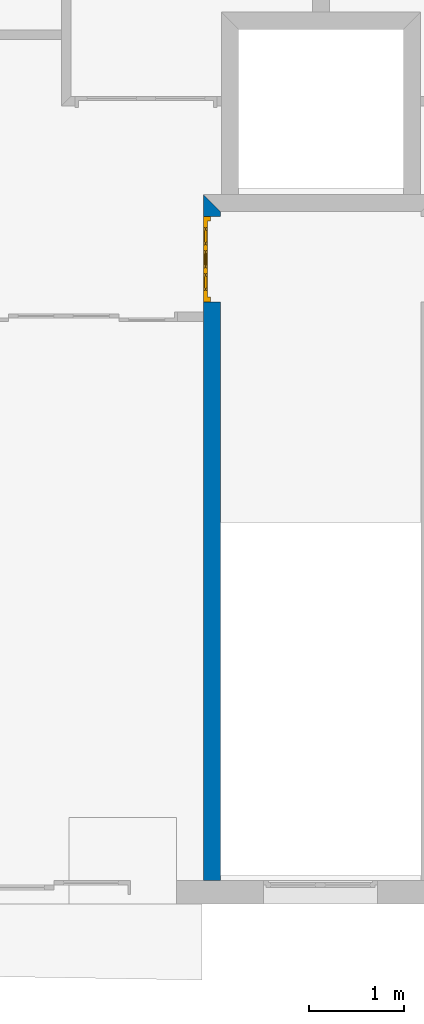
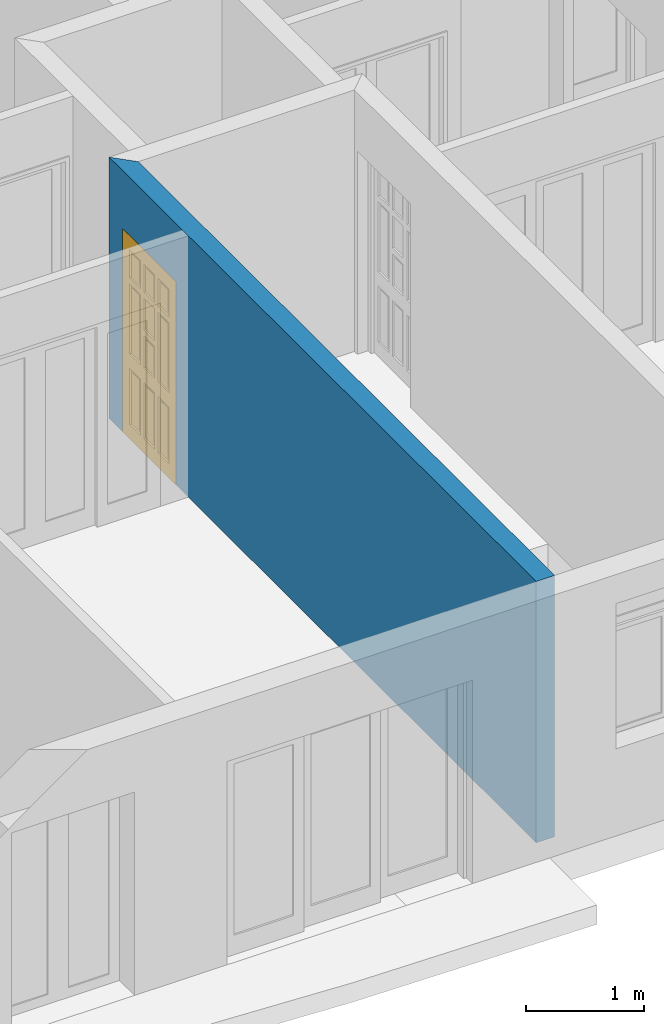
# One storey, part 5 of 12: 1 door, 1 wall, 1 opening.
"""IFC2X3 building model written with IfcOpenShell, lengths in metres."""

from ifc_helpers import new_model, entity, si_unit, converted_unit, direction, frame, frame_2d, origin_with_axes, place, context, project, spatial, polyline, rectangle, outline, extrude, faceted_brep, source, transform, mapped, material, layer, layer_set, layer_usage, type_object, element, fill, save


model = new_model("IFC2X3")

# Units and contexts
context_of_model = context(None, 3, precision=1e-05, world=origin_with_axes(), true_north=direction((6.123234e-17, 1.0)))
plan_context = context("Plan", 3, precision=1e-05, world=origin_with_axes(), true_north=direction((6.123234e-17, 1.0)))
model_context = context("Model", 3, precision=1e-05, world=origin_with_axes(), true_north=direction((6.123234e-17, 1.0)))
ifc_project = project(units=[si_unit("LENGTHUNIT", "METRE"), si_unit("AREAUNIT", "SQUARE_METRE"), si_unit("VOLUMEUNIT", "CUBIC_METRE"), converted_unit("PLANEANGLEUNIT", "DEGREE", entity("IfcPlaneAngleMeasure", 0.017453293), si_unit("PLANEANGLEUNIT", "RADIAN"), dimensions=[0, 0, 0, 0, 0, 0, 0]), si_unit("SOLIDANGLEUNIT", "STERADIAN"), si_unit("MASSUNIT", "GRAM"), si_unit("TIMEUNIT", "SECOND"), si_unit("THERMODYNAMICTEMPERATUREUNIT", "DEGREE_CELSIUS"), si_unit("LUMINOUSINTENSITYUNIT", "LUMEN")], contexts=[context_of_model, plan_context, model_context])

# Site, building, storey
site_placement = place(None, origin_with_axes())
site = spatial("IfcSite", under=ifc_project, at=site_placement, Name="Por defecto Sitio", CompositionType="ELEMENT")
building_placement = place(site_placement, origin_with_axes())
building = spatial("IfcBuilding", under=site, at=building_placement, Name="Por defecto Edificio", CompositionType="ELEMENT")
storey_placement = place(building_placement, frame((0.0, 0.0, 4.2), z_axis=(0.0, 0.0, 1.0), x_axis=(1.0, 0.0, 0.0)))
storey = spatial("IfcBuildingStorey", under=building, at=storey_placement, Name="Primera", CompositionType="ELEMENT", Elevation=4.2)

# Wall, opening, door
ifc_material = material(Name="Ladrillo común")
ifc_layer = layer(ifc_material, 0.18, ventilated="UNKNOWN")
ifc_layer_set = layer_set([ifc_layer], Name="Ladrillo común")
ifc_layer_usage = layer_usage(ifc_layer_set, "AXIS2", "NEGATIVE", 0.0)
wall_type = type_object("IfcWallType", Name="Ladrillo común", PredefinedType="NOTDEFINED")
wall_placement = place(storey_placement, frame((6.9566603, 7.2976562, 0.0), z_axis=(0.0, 0.0, 1.0), x_axis=(0.0, -1.0, 0.0)))
wall = element("IfcWallStandardCase", 1, at=wall_placement, inside=storey, type_object=wall_type, material=ifc_layer_usage, Name="Muro-010", context=context_of_model, shape_type="SweptSolid", body=[
    extrude(outline(polyline([(-0.18, -0.18), (7.0476562, -0.18), (7.0476562, 0.0), (-8.0824236e-14, 0.0), (-0.18, -0.18)])), origin_with_axes(), (0.0, 0.0, 1.0), 2.7),
])
opening_placement = place(wall_placement, frame((0.5, -0.18, 0.0), z_axis=(0.0, 0.0, 1.0), x_axis=(1.0, 0.0, 0.0)))
opening = element("IfcOpeningElement", 2, at=opening_placement, cuts=wall, ObjectType="Opening", context=model_context, shape_type="SweptSolid", body=[
    extrude(rectangle(XDim=0.9, YDim=2.1, at=frame_2d((0.0, 1.05), x_axis=(-1.0, 0.0))), frame((0.0, 0.0, 0.0), z_axis=(0.0, 1.0, 0.0), x_axis=(-1.0, 0.0, 0.0)), (0.0, 0.0, 1.0), 0.18),
])
door_style = type_object("IfcDoorStyle", Name="P1 Entrada 12", ConstructionType="NOTDEFINED", OperationType="SINGLE_SWING_LEFT", ParameterTakesPrecedence=False, Sizeable=False)
shared_shape = source(origin_with_axes(), model_context, "Body", "Brep", [
    faceted_brep([(0.85, 0.031, 0.0), (0.85, -8.8817842e-16, 0.0), (0.85, -8.8817842e-16, 2.05), (0.85, 0.031, 2.05), (0.862, 0.031, 0.0), (0.862, 0.075, 0.0), (0.9, 0.075, 0.0), (0.9, -8.8817842e-16, 0.0), (0.9, -8.8817842e-16, 2.05), (0.862, 0.031, 2.05), (0.9, 0.075, 2.05), (0.862, 0.075, 2.05)], [[[0, 1, 2, 3]], [[4, 5, 6, 7, 1, 0]], [[7, 8, 2, 1]], [[9, 3, 2, 8, 10, 11]], [[9, 4, 0, 3]], [[11, 5, 4, 9]], [[11, 10, 6, 5]], [[8, 7, 6, 10]]]),
    faceted_brep([(0.038, 0.031, 2.05), (0.038, 0.075, 2.05), (0.0, 0.075, 2.05), (0.0, -8.8817842e-16, 2.05), (0.05, -8.8817842e-16, 2.05), (0.05, 0.031, 2.05), (0.038, 0.031, 0.0), (0.038, 0.075, 0.0), (0.0, 0.075, 0.0), (0.0, 0.0, 0.0), (0.05, -8.8817842e-16, 0.0), (0.05, 0.031, 0.0)], [[[0, 1, 2, 3, 4, 5]], [[0, 6, 7, 1]], [[7, 8, 2, 1]], [[9, 3, 2, 8]], [[10, 4, 3, 9]], [[5, 4, 10, 11]], [[5, 11, 6, 0]], [[6, 11, 10, 9, 8, 7]]]),
    faceted_brep([(0.862, 0.075, 2.062), (0.038, 0.075, 2.062), (0.038, 0.075, 2.05), (0.0, 0.075, 2.05), (0.0, 0.075, 2.1), (0.9, 0.075, 2.1), (0.9, 0.075, 2.05), (0.862, 0.075, 2.05), (0.862, 0.031, 2.062), (0.038, 0.031, 2.062), (0.038, 0.031, 2.05), (0.05, 0.031, 2.05), (0.05, -8.8817842e-16, 2.05), (0.0, -8.8817842e-16, 2.05), (0.0, -8.8817842e-16, 2.1), (0.9, -8.8817842e-16, 2.1), (0.9, -8.8817842e-16, 2.05), (0.862, 0.031, 2.05), (0.85, -8.8817842e-16, 2.05), (0.85, 0.031, 2.05)], [[[0, 1, 2, 3, 4, 5, 6, 7]], [[0, 8, 9, 1]], [[1, 9, 10, 2]], [[10, 11, 12, 13, 3, 2]], [[13, 14, 4, 3]], [[14, 15, 5, 4]], [[15, 16, 6, 5]], [[17, 7, 6, 16, 18, 19]], [[7, 17, 8, 0]], [[10, 9, 8, 17, 19, 11]], [[19, 18, 12, 11]], [[14, 13, 12, 18, 16, 15]]]),
    faceted_brep([(0.038, 0.075, 0.15), (0.118, 0.075, 0.15), (0.118, 0.031, 0.15), (0.038, 0.031, 0.15), (0.038, 0.075, 1.952), (0.118, 0.075, 1.952), (0.118, 0.075, 1.6618667), (0.118, 0.075, 1.6018667), (0.118, 0.075, 0.88), (0.118, 0.075, 0.73), (0.118, 0.031, 0.73), (0.118, 0.031, 0.88), (0.118, 0.031, 1.6018667), (0.118, 0.031, 1.6618667), (0.118, 0.031, 1.952), (0.038, 0.031, 1.952)], [[[0, 1, 2, 3]], [[0, 4, 5, 6, 7, 8, 9, 1]], [[1, 9, 10, 2]], [[3, 2, 10, 11, 12, 13, 14, 15]], [[4, 0, 3, 15]], [[5, 4, 15, 14]], [[6, 5, 14, 13]], [[7, 6, 13, 12]], [[8, 7, 12, 11]], [[9, 8, 11, 10]]]),
    faceted_brep([(0.862, 0.075, 0.15), (0.862, 0.075, 1.952), (0.862, 0.031, 1.952), (0.862, 0.031, 0.15), (0.782, 0.075, 0.15), (0.782, 0.075, 0.73), (0.782, 0.075, 0.88), (0.782, 0.075, 1.6018667), (0.782, 0.075, 1.6618667), (0.782, 0.075, 1.952), (0.782, 0.031, 1.952), (0.782, 0.031, 1.6618667), (0.782, 0.031, 1.6018667), (0.782, 0.031, 0.88), (0.782, 0.031, 0.73), (0.782, 0.031, 0.15)], [[[0, 1, 2, 3]], [[0, 4, 5, 6, 7, 8, 9, 1]], [[1, 9, 10, 2]], [[3, 2, 10, 11, 12, 13, 14, 15]], [[4, 0, 3, 15]], [[5, 4, 15, 14]], [[6, 5, 14, 13]], [[7, 6, 13, 12]], [[8, 7, 12, 11]], [[9, 8, 11, 10]]]),
    faceted_brep([(0.038, 0.075, 0.0), (0.862, 0.075, 0.0), (0.862, 0.031, 0.0), (0.038, 0.031, 0.0), (0.038, 0.075, 0.15), (0.118, 0.075, 0.15), (0.29933333, 0.075, 0.15), (0.35933333, 0.075, 0.15), (0.54066667, 0.075, 0.15), (0.60066667, 0.075, 0.15), (0.782, 0.075, 0.15), (0.862, 0.075, 0.15), (0.862, 0.031, 0.15), (0.782, 0.031, 0.15), (0.60066667, 0.031, 0.15), (0.54066667, 0.031, 0.15), (0.35933333, 0.031, 0.15), (0.29933333, 0.031, 0.15), (0.118, 0.031, 0.15), (0.038, 0.031, 0.15)], [[[0, 1, 2, 3]], [[0, 4, 5, 6, 7, 8, 9, 10, 11, 1]], [[1, 11, 12, 2]], [[3, 2, 12, 13, 14, 15, 16, 17, 18, 19]], [[4, 0, 3, 19]], [[5, 4, 19, 18]], [[6, 5, 18, 17]], [[7, 6, 17, 16]], [[8, 7, 16, 15]], [[9, 8, 15, 14]], [[10, 9, 14, 13]], [[11, 10, 13, 12]]]),
    faceted_brep([(0.038, 0.075, 2.062), (0.038, 0.075, 1.952), (0.038, 0.031, 1.952), (0.038, 0.031, 2.062), (0.862, 0.075, 2.062), (0.862, 0.075, 1.952), (0.782, 0.075, 1.952), (0.60066667, 0.075, 1.952), (0.54066667, 0.075, 1.952), (0.35933333, 0.075, 1.952), (0.29933333, 0.075, 1.952), (0.118, 0.075, 1.952), (0.118, 0.031, 1.952), (0.29933333, 0.031, 1.952), (0.35933333, 0.031, 1.952), (0.54066667, 0.031, 1.952), (0.60066667, 0.031, 1.952), (0.782, 0.031, 1.952), (0.862, 0.031, 1.952), (0.862, 0.031, 2.062)], [[[0, 1, 2, 3]], [[0, 4, 5, 6, 7, 8, 9, 10, 11, 1]], [[1, 11, 12, 2]], [[3, 2, 12, 13, 14, 15, 16, 17, 18, 19]], [[4, 0, 3, 19]], [[5, 4, 19, 18]], [[6, 5, 18, 17]], [[7, 6, 17, 16]], [[8, 7, 16, 15]], [[9, 8, 15, 14]], [[10, 9, 14, 13]], [[11, 10, 13, 12]]]),
    faceted_brep([(0.35933333, 0.075, 0.15), (0.35933333, 0.075, 0.73), (0.35933333, 0.031, 0.73), (0.35933333, 0.031, 0.15), (0.29933333, 0.075, 0.15), (0.29933333, 0.075, 0.73), (0.29933333, 0.031, 0.73), (0.29933333, 0.031, 0.15)], [[[0, 1, 2, 3]], [[0, 4, 5, 1]], [[1, 5, 6, 2]], [[3, 2, 6, 7]], [[4, 0, 3, 7]], [[5, 4, 7, 6]]]),
    faceted_brep([(0.35933333, 0.075, 0.88), (0.35933333, 0.075, 1.2109333), (0.35933333, 0.031, 1.2109333), (0.35933333, 0.031, 0.88), (0.29933333, 0.075, 0.88), (0.29933333, 0.075, 1.6018667), (0.35933333, 0.075, 1.6018667), (0.35933333, 0.075, 1.2709333), (0.35933333, 0.031, 1.2709333), (0.35933333, 0.031, 1.6018667), (0.29933333, 0.031, 1.6018667), (0.29933333, 0.031, 0.88)], [[[0, 1, 2, 3]], [[0, 4, 5, 6, 7, 1]], [[1, 7, 8, 2]], [[3, 2, 8, 9, 10, 11]], [[4, 0, 3, 11]], [[5, 4, 11, 10]], [[6, 5, 10, 9]], [[7, 6, 9, 8]]]),
    faceted_brep([(0.35933333, 0.075, 1.6618667), (0.35933333, 0.075, 1.952), (0.35933333, 0.031, 1.952), (0.35933333, 0.031, 1.6618667), (0.29933333, 0.075, 1.6618667), (0.29933333, 0.075, 1.952), (0.29933333, 0.031, 1.952), (0.29933333, 0.031, 1.6618667)], [[[0, 1, 2, 3]], [[0, 4, 5, 1]], [[1, 5, 6, 2]], [[3, 2, 6, 7]], [[4, 0, 3, 7]], [[5, 4, 7, 6]]]),
    faceted_brep([(0.60066667, 0.075, 0.15), (0.60066667, 0.075, 0.73), (0.60066667, 0.031, 0.73), (0.60066667, 0.031, 0.15), (0.54066667, 0.075, 0.15), (0.54066667, 0.075, 0.73), (0.54066667, 0.031, 0.73), (0.54066667, 0.031, 0.15)], [[[0, 1, 2, 3]], [[0, 4, 5, 1]], [[1, 5, 6, 2]], [[3, 2, 6, 7]], [[4, 0, 3, 7]], [[5, 4, 7, 6]]]),
    faceted_brep([(0.60066667, 0.075, 0.88), (0.60066667, 0.075, 1.6018667), (0.60066667, 0.031, 1.6018667), (0.60066667, 0.031, 0.88), (0.54066667, 0.075, 0.88), (0.54066667, 0.075, 1.2109333), (0.54066667, 0.075, 1.2709333), (0.54066667, 0.075, 1.6018667), (0.54066667, 0.031, 1.6018667), (0.54066667, 0.031, 1.2709333), (0.54066667, 0.031, 1.2109333), (0.54066667, 0.031, 0.88)], [[[0, 1, 2, 3]], [[0, 4, 5, 6, 7, 1]], [[1, 7, 8, 2]], [[3, 2, 8, 9, 10, 11]], [[4, 0, 3, 11]], [[5, 4, 11, 10]], [[6, 5, 10, 9]], [[7, 6, 9, 8]]]),
    faceted_brep([(0.60066667, 0.075, 1.6618667), (0.60066667, 0.075, 1.952), (0.60066667, 0.031, 1.952), (0.60066667, 0.031, 1.6618667), (0.54066667, 0.075, 1.6618667), (0.54066667, 0.075, 1.952), (0.54066667, 0.031, 1.952), (0.54066667, 0.031, 1.6618667)], [[[0, 1, 2, 3]], [[0, 4, 5, 1]], [[1, 5, 6, 2]], [[3, 2, 6, 7]], [[4, 0, 3, 7]], [[5, 4, 7, 6]]]),
    faceted_brep([(0.118, 0.075, 1.6018667), (0.29933333, 0.075, 1.6018667), (0.29933333, 0.031, 1.6018667), (0.118, 0.031, 1.6018667), (0.118, 0.075, 1.6618667), (0.29933333, 0.075, 1.6618667), (0.35933333, 0.075, 1.6618667), (0.54066667, 0.075, 1.6618667), (0.60066667, 0.075, 1.6618667), (0.782, 0.075, 1.6618667), (0.782, 0.075, 1.6018667), (0.60066667, 0.075, 1.6018667), (0.54066667, 0.075, 1.6018667), (0.35933333, 0.075, 1.6018667), (0.35933333, 0.031, 1.6018667), (0.54066667, 0.031, 1.6018667), (0.60066667, 0.031, 1.6018667), (0.782, 0.031, 1.6018667), (0.782, 0.031, 1.6618667), (0.60066667, 0.031, 1.6618667), (0.54066667, 0.031, 1.6618667), (0.35933333, 0.031, 1.6618667), (0.29933333, 0.031, 1.6618667), (0.118, 0.031, 1.6618667)], [[[0, 1, 2, 3]], [[0, 4, 5, 6, 7, 8, 9, 10, 11, 12, 13, 1]], [[1, 13, 14, 2]], [[3, 2, 14, 15, 16, 17, 18, 19, 20, 21, 22, 23]], [[4, 0, 3, 23]], [[5, 4, 23, 22]], [[6, 5, 22, 21]], [[7, 6, 21, 20]], [[8, 7, 20, 19]], [[9, 8, 19, 18]], [[10, 9, 18, 17]], [[11, 10, 17, 16]], [[12, 11, 16, 15]], [[13, 12, 15, 14]]]),
    faceted_brep([(0.54066667, 0.075, 1.2109333), (0.54066667, 0.075, 1.2709333), (0.54066667, 0.031, 1.2709333), (0.54066667, 0.031, 1.2109333), (0.35933333, 0.075, 1.2109333), (0.35933333, 0.075, 1.2709333), (0.35933333, 0.031, 1.2709333), (0.35933333, 0.031, 1.2109333)], [[[0, 1, 2, 3]], [[0, 4, 5, 1]], [[1, 5, 6, 2]], [[3, 2, 6, 7]], [[4, 0, 3, 7]], [[5, 4, 7, 6]]]),
    faceted_brep([(0.118, 0.075, 0.73), (0.29933333, 0.075, 0.73), (0.29933333, 0.031, 0.73), (0.118, 0.031, 0.73), (0.118, 0.075, 0.88), (0.29933333, 0.075, 0.88), (0.35933333, 0.075, 0.88), (0.54066667, 0.075, 0.88), (0.60066667, 0.075, 0.88), (0.782, 0.075, 0.88), (0.782, 0.075, 0.73), (0.60066667, 0.075, 0.73), (0.54066667, 0.075, 0.73), (0.35933333, 0.075, 0.73), (0.35933333, 0.031, 0.73), (0.54066667, 0.031, 0.73), (0.60066667, 0.031, 0.73), (0.782, 0.031, 0.73), (0.782, 0.031, 0.88), (0.60066667, 0.031, 0.88), (0.54066667, 0.031, 0.88), (0.35933333, 0.031, 0.88), (0.29933333, 0.031, 0.88), (0.118, 0.031, 0.88)], [[[0, 1, 2, 3]], [[0, 4, 5, 6, 7, 8, 9, 10, 11, 12, 13, 1]], [[1, 13, 14, 2]], [[3, 2, 14, 15, 16, 17, 18, 19, 20, 21, 22, 23]], [[4, 0, 3, 23]], [[5, 4, 23, 22]], [[6, 5, 22, 21]], [[7, 6, 21, 20]], [[8, 7, 20, 19]], [[9, 8, 19, 18]], [[10, 9, 18, 17]], [[11, 10, 17, 16]], [[12, 11, 16, 15]], [[13, 12, 15, 14]]]),
    faceted_brep([(0.118, 0.058, 0.15), (0.29933333, 0.058, 0.15), (0.29933333, 0.048, 0.15), (0.118, 0.048, 0.15), (0.118, 0.058, 0.73), (0.29933333, 0.058, 0.73), (0.29933333, 0.048, 0.73), (0.118, 0.048, 0.73)], [[[0, 1, 2, 3]], [[0, 4, 5, 1]], [[1, 5, 6, 2]], [[3, 2, 6, 7]], [[4, 0, 3, 7]], [[5, 4, 7, 6]]]),
    faceted_brep([(0.35933333, 0.058, 0.15), (0.54066667, 0.058, 0.15), (0.54066667, 0.048, 0.15), (0.35933333, 0.048, 0.15), (0.35933333, 0.058, 0.73), (0.54066667, 0.058, 0.73), (0.54066667, 0.048, 0.73), (0.35933333, 0.048, 0.73)], [[[0, 1, 2, 3]], [[0, 4, 5, 1]], [[1, 5, 6, 2]], [[3, 2, 6, 7]], [[4, 0, 3, 7]], [[5, 4, 7, 6]]]),
    faceted_brep([(0.60066667, 0.058, 0.15), (0.782, 0.058, 0.15), (0.782, 0.048, 0.15), (0.60066667, 0.048, 0.15), (0.60066667, 0.058, 0.73), (0.782, 0.058, 0.73), (0.782, 0.048, 0.73), (0.60066667, 0.048, 0.73)], [[[0, 1, 2, 3]], [[0, 4, 5, 1]], [[1, 5, 6, 2]], [[3, 2, 6, 7]], [[4, 0, 3, 7]], [[5, 4, 7, 6]]]),
    faceted_brep([(0.118, 0.058, 1.6618667), (0.29933333, 0.058, 1.6618667), (0.29933333, 0.048, 1.6618667), (0.118, 0.048, 1.6618667), (0.118, 0.058, 1.952), (0.29933333, 0.058, 1.952), (0.29933333, 0.048, 1.952), (0.118, 0.048, 1.952)], [[[0, 1, 2, 3]], [[0, 4, 5, 1]], [[1, 5, 6, 2]], [[3, 2, 6, 7]], [[4, 0, 3, 7]], [[5, 4, 7, 6]]]),
    faceted_brep([(0.35933333, 0.058, 1.6618667), (0.54066667, 0.058, 1.6618667), (0.54066667, 0.048, 1.6618667), (0.35933333, 0.048, 1.6618667), (0.35933333, 0.058, 1.952), (0.54066667, 0.058, 1.952), (0.54066667, 0.048, 1.952), (0.35933333, 0.048, 1.952)], [[[0, 1, 2, 3]], [[0, 4, 5, 1]], [[1, 5, 6, 2]], [[3, 2, 6, 7]], [[4, 0, 3, 7]], [[5, 4, 7, 6]]]),
    faceted_brep([(0.60066667, 0.058, 1.6618667), (0.782, 0.058, 1.6618667), (0.782, 0.048, 1.6618667), (0.60066667, 0.048, 1.6618667), (0.60066667, 0.058, 1.952), (0.782, 0.058, 1.952), (0.782, 0.048, 1.952), (0.60066667, 0.048, 1.952)], [[[0, 1, 2, 3]], [[0, 4, 5, 1]], [[1, 5, 6, 2]], [[3, 2, 6, 7]], [[4, 0, 3, 7]], [[5, 4, 7, 6]]]),
    faceted_brep([(0.118, 0.058, 0.88), (0.29933333, 0.058, 0.88), (0.29933333, 0.048, 0.88), (0.118, 0.048, 0.88), (0.118, 0.058, 1.6018667), (0.29933333, 0.058, 1.6018667), (0.29933333, 0.048, 1.6018667), (0.118, 0.048, 1.6018667)], [[[0, 1, 2, 3]], [[0, 4, 5, 1]], [[1, 5, 6, 2]], [[3, 2, 6, 7]], [[4, 0, 3, 7]], [[5, 4, 7, 6]]]),
    faceted_brep([(0.35933333, 0.058, 0.88), (0.54066667, 0.058, 0.88), (0.54066667, 0.048, 0.88), (0.35933333, 0.048, 0.88), (0.35933333, 0.058, 1.2109333), (0.54066667, 0.058, 1.2109333), (0.54066667, 0.048, 1.2109333), (0.35933333, 0.048, 1.2109333)], [[[0, 1, 2, 3]], [[0, 4, 5, 1]], [[1, 5, 6, 2]], [[3, 2, 6, 7]], [[4, 0, 3, 7]], [[5, 4, 7, 6]]]),
    faceted_brep([(0.60066667, 0.058, 0.88), (0.782, 0.058, 0.88), (0.782, 0.048, 0.88), (0.60066667, 0.048, 0.88), (0.60066667, 0.058, 1.6018667), (0.782, 0.058, 1.6018667), (0.782, 0.048, 1.6018667), (0.60066667, 0.048, 1.6018667)], [[[0, 1, 2, 3]], [[0, 4, 5, 1]], [[1, 5, 6, 2]], [[3, 2, 6, 7]], [[4, 0, 3, 7]], [[5, 4, 7, 6]]]),
    faceted_brep([(0.35933333, 0.058, 1.2709333), (0.54066667, 0.058, 1.2709333), (0.54066667, 0.048, 1.2709333), (0.35933333, 0.048, 1.2709333), (0.35933333, 0.058, 1.6018667), (0.54066667, 0.058, 1.6018667), (0.54066667, 0.048, 1.6018667), (0.35933333, 0.048, 1.6018667)], [[[0, 1, 2, 3]], [[0, 4, 5, 1]], [[1, 5, 6, 2]], [[3, 2, 6, 7]], [[4, 0, 3, 7]], [[5, 4, 7, 6]]]),
    faceted_brep([(0.148, 0.066, 0.18), (0.26933333, 0.066, 0.18), (0.26933333, 0.058, 0.18), (0.148, 0.058, 0.18), (0.148, 0.066, 0.7), (0.26933333, 0.066, 0.7), (0.26933333, 0.058, 0.7), (0.148, 0.058, 0.7)], [[[0, 1, 2, 3]], [[0, 4, 5, 1]], [[1, 5, 6, 2]], [[3, 2, 6, 7]], [[4, 0, 3, 7]], [[5, 4, 7, 6]]]),
    faceted_brep([(0.38933333, 0.066, 0.18), (0.51066667, 0.066, 0.18), (0.51066667, 0.058, 0.18), (0.38933333, 0.058, 0.18), (0.38933333, 0.066, 0.7), (0.51066667, 0.066, 0.7), (0.51066667, 0.058, 0.7), (0.38933333, 0.058, 0.7)], [[[0, 1, 2, 3]], [[0, 4, 5, 1]], [[1, 5, 6, 2]], [[3, 2, 6, 7]], [[4, 0, 3, 7]], [[5, 4, 7, 6]]]),
    faceted_brep([(0.63066667, 0.066, 0.18), (0.752, 0.066, 0.18), (0.752, 0.058, 0.18), (0.63066667, 0.058, 0.18), (0.63066667, 0.066, 0.7), (0.752, 0.066, 0.7), (0.752, 0.058, 0.7), (0.63066667, 0.058, 0.7)], [[[0, 1, 2, 3]], [[0, 4, 5, 1]], [[1, 5, 6, 2]], [[3, 2, 6, 7]], [[4, 0, 3, 7]], [[5, 4, 7, 6]]]),
    faceted_brep([(0.148, 0.066, 1.6918667), (0.26933333, 0.066, 1.6918667), (0.26933333, 0.058, 1.6918667), (0.148, 0.058, 1.6918667), (0.148, 0.066, 1.922), (0.26933333, 0.066, 1.922), (0.26933333, 0.058, 1.922), (0.148, 0.058, 1.922)], [[[0, 1, 2, 3]], [[0, 4, 5, 1]], [[1, 5, 6, 2]], [[3, 2, 6, 7]], [[4, 0, 3, 7]], [[5, 4, 7, 6]]]),
    faceted_brep([(0.38933333, 0.066, 1.6918667), (0.51066667, 0.066, 1.6918667), (0.51066667, 0.058, 1.6918667), (0.38933333, 0.058, 1.6918667), (0.38933333, 0.066, 1.922), (0.51066667, 0.066, 1.922), (0.51066667, 0.058, 1.922), (0.38933333, 0.058, 1.922)], [[[0, 1, 2, 3]], [[0, 4, 5, 1]], [[1, 5, 6, 2]], [[3, 2, 6, 7]], [[4, 0, 3, 7]], [[5, 4, 7, 6]]]),
    faceted_brep([(0.63066667, 0.066, 1.6918667), (0.752, 0.066, 1.6918667), (0.752, 0.058, 1.6918667), (0.63066667, 0.058, 1.6918667), (0.63066667, 0.066, 1.922), (0.752, 0.066, 1.922), (0.752, 0.058, 1.922), (0.63066667, 0.058, 1.922)], [[[0, 1, 2, 3]], [[0, 4, 5, 1]], [[1, 5, 6, 2]], [[3, 2, 6, 7]], [[4, 0, 3, 7]], [[5, 4, 7, 6]]]),
    faceted_brep([(0.148, 0.066, 0.91), (0.26933333, 0.066, 0.91), (0.26933333, 0.058, 0.91), (0.148, 0.058, 0.91), (0.148, 0.066, 1.5718667), (0.26933333, 0.066, 1.5718667), (0.26933333, 0.058, 1.5718667), (0.148, 0.058, 1.5718667)], [[[0, 1, 2, 3]], [[0, 4, 5, 1]], [[1, 5, 6, 2]], [[3, 2, 6, 7]], [[4, 0, 3, 7]], [[5, 4, 7, 6]]]),
    faceted_brep([(0.38933333, 0.066, 0.91), (0.51066667, 0.066, 0.91), (0.51066667, 0.058, 0.91), (0.38933333, 0.058, 0.91), (0.38933333, 0.066, 1.1809333), (0.51066667, 0.066, 1.1809333), (0.51066667, 0.058, 1.1809333), (0.38933333, 0.058, 1.1809333)], [[[0, 1, 2, 3]], [[0, 4, 5, 1]], [[1, 5, 6, 2]], [[3, 2, 6, 7]], [[4, 0, 3, 7]], [[5, 4, 7, 6]]]),
    faceted_brep([(0.63066667, 0.066, 0.91), (0.752, 0.066, 0.91), (0.752, 0.058, 0.91), (0.63066667, 0.058, 0.91), (0.63066667, 0.066, 1.5718667), (0.752, 0.066, 1.5718667), (0.752, 0.058, 1.5718667), (0.63066667, 0.058, 1.5718667)], [[[0, 1, 2, 3]], [[0, 4, 5, 1]], [[1, 5, 6, 2]], [[3, 2, 6, 7]], [[4, 0, 3, 7]], [[5, 4, 7, 6]]]),
    faceted_brep([(0.148, 0.048, 0.18), (0.26933333, 0.048, 0.18), (0.26933333, 0.04, 0.18), (0.148, 0.04, 0.18), (0.148, 0.048, 0.7), (0.26933333, 0.048, 0.7), (0.26933333, 0.04, 0.7), (0.148, 0.04, 0.7)], [[[0, 1, 2, 3]], [[0, 4, 5, 1]], [[1, 5, 6, 2]], [[3, 2, 6, 7]], [[4, 0, 3, 7]], [[5, 4, 7, 6]]]),
    faceted_brep([(0.38933333, 0.048, 0.18), (0.51066667, 0.048, 0.18), (0.51066667, 0.04, 0.18), (0.38933333, 0.04, 0.18), (0.38933333, 0.048, 0.7), (0.51066667, 0.048, 0.7), (0.51066667, 0.04, 0.7), (0.38933333, 0.04, 0.7)], [[[0, 1, 2, 3]], [[0, 4, 5, 1]], [[1, 5, 6, 2]], [[3, 2, 6, 7]], [[4, 0, 3, 7]], [[5, 4, 7, 6]]]),
    faceted_brep([(0.63066667, 0.048, 0.18), (0.752, 0.048, 0.18), (0.752, 0.04, 0.18), (0.63066667, 0.04, 0.18), (0.63066667, 0.048, 0.7), (0.752, 0.048, 0.7), (0.752, 0.04, 0.7), (0.63066667, 0.04, 0.7)], [[[0, 1, 2, 3]], [[0, 4, 5, 1]], [[1, 5, 6, 2]], [[3, 2, 6, 7]], [[4, 0, 3, 7]], [[5, 4, 7, 6]]]),
    faceted_brep([(0.148, 0.048, 1.6918667), (0.26933333, 0.048, 1.6918667), (0.26933333, 0.04, 1.6918667), (0.148, 0.04, 1.6918667), (0.148, 0.048, 1.922), (0.26933333, 0.048, 1.922), (0.26933333, 0.04, 1.922), (0.148, 0.04, 1.922)], [[[0, 1, 2, 3]], [[0, 4, 5, 1]], [[1, 5, 6, 2]], [[3, 2, 6, 7]], [[4, 0, 3, 7]], [[5, 4, 7, 6]]]),
    faceted_brep([(0.38933333, 0.048, 1.6918667), (0.51066667, 0.048, 1.6918667), (0.51066667, 0.04, 1.6918667), (0.38933333, 0.04, 1.6918667), (0.38933333, 0.048, 1.922), (0.51066667, 0.048, 1.922), (0.51066667, 0.04, 1.922), (0.38933333, 0.04, 1.922)], [[[0, 1, 2, 3]], [[0, 4, 5, 1]], [[1, 5, 6, 2]], [[3, 2, 6, 7]], [[4, 0, 3, 7]], [[5, 4, 7, 6]]]),
    faceted_brep([(0.63066667, 0.048, 1.6918667), (0.752, 0.048, 1.6918667), (0.752, 0.04, 1.6918667), (0.63066667, 0.04, 1.6918667), (0.63066667, 0.048, 1.922), (0.752, 0.048, 1.922), (0.752, 0.04, 1.922), (0.63066667, 0.04, 1.922)], [[[0, 1, 2, 3]], [[0, 4, 5, 1]], [[1, 5, 6, 2]], [[3, 2, 6, 7]], [[4, 0, 3, 7]], [[5, 4, 7, 6]]]),
    faceted_brep([(0.148, 0.048, 0.91), (0.26933333, 0.048, 0.91), (0.26933333, 0.04, 0.91), (0.148, 0.04, 0.91), (0.148, 0.048, 1.5718667), (0.26933333, 0.048, 1.5718667), (0.26933333, 0.04, 1.5718667), (0.148, 0.04, 1.5718667)], [[[0, 1, 2, 3]], [[0, 4, 5, 1]], [[1, 5, 6, 2]], [[3, 2, 6, 7]], [[4, 0, 3, 7]], [[5, 4, 7, 6]]]),
    faceted_brep([(0.38933333, 0.048, 0.91), (0.51066667, 0.048, 0.91), (0.51066667, 0.04, 0.91), (0.38933333, 0.04, 0.91), (0.38933333, 0.048, 1.1809333), (0.51066667, 0.048, 1.1809333), (0.51066667, 0.04, 1.1809333), (0.38933333, 0.04, 1.1809333)], [[[0, 1, 2, 3]], [[0, 4, 5, 1]], [[1, 5, 6, 2]], [[3, 2, 6, 7]], [[4, 0, 3, 7]], [[5, 4, 7, 6]]]),
    faceted_brep([(0.63066667, 0.048, 0.91), (0.752, 0.048, 0.91), (0.752, 0.04, 0.91), (0.63066667, 0.04, 0.91), (0.63066667, 0.048, 1.5718667), (0.752, 0.048, 1.5718667), (0.752, 0.04, 1.5718667), (0.63066667, 0.04, 1.5718667)], [[[0, 1, 2, 3]], [[0, 4, 5, 1]], [[1, 5, 6, 2]], [[3, 2, 6, 7]], [[4, 0, 3, 7]], [[5, 4, 7, 6]]]),
])
door_placement = place(opening_placement, frame((0.45, 0.075, 0.0), z_axis=(0.0, 0.0, 1.0), x_axis=(-1.0, 0.0, 0.0)))
door = element("IfcDoor", 3, at=door_placement, inside=storey, type_object=door_style, Name="P12", OverallHeight=2.1, OverallWidth=0.9, context=model_context, shape_type="MappedRepresentation", body=[
    mapped(shared_shape, transform((0.0, 0.0, 0.0), scale=1.0)),
])
fill(opening, door)

save(model, "model.ifc")
